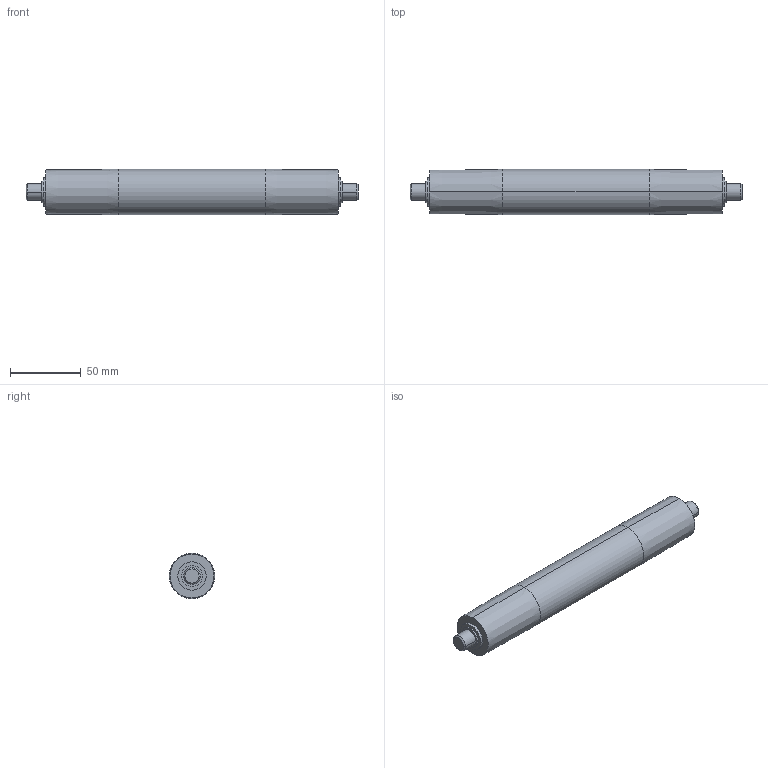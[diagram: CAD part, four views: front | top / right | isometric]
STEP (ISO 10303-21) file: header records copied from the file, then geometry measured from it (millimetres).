
FILE_DESCRIPTION (( 'STEP AP203' ), '1' );
FILE_NAME ('084.801.062.STEP', '2015-02-11T08:14:27', ( '' ), ( '' ), 'SwSTEP 2.0', 'SolidWorks 2012', '' );
FILE_SCHEMA (( 'CONFIG_CONTROL_DESIGN' ));
Length unit declared in the file: millimetre
Products named in the file (1): 084.801.062
Bounding box: 234 x 32 x 32 mm (x, y, z)
Volume: 167175.9 mm3; surface area: 23185.8 mm2
Topology: 1 solids, 1 shells, 30 faces, 58 edges, 36 vertices
Faces by surface type: cylinder 14, cone 8, plane 8
Entity records: 851 total; most frequent: DIRECTION 156, CARTESIAN_POINT 125, ORIENTED_EDGE 116, AXIS2_PLACEMENT_3D 67, EDGE_CURVE 58, CIRCLE 36, EDGE_LOOP 36, VERTEX_POINT 36
